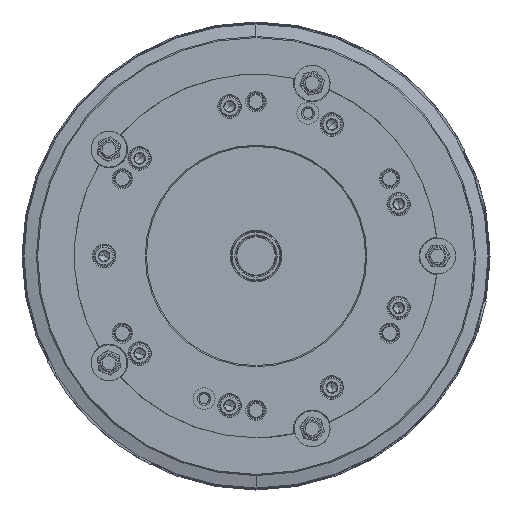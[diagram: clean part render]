
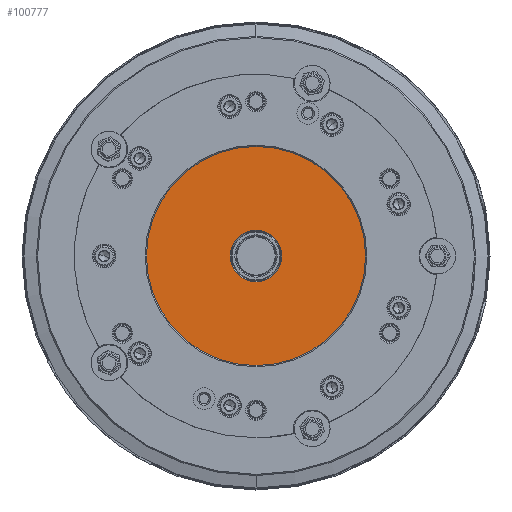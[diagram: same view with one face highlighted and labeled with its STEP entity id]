
A CAD part, left-side view. The second image highlights one B-rep face of the part: STEP entity #100777.
In plain terms, the highlighted planar face has unit normal (-1, 0, 0).
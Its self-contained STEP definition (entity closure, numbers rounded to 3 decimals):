
#2400 = DIRECTION ( 'NONE',  ( 1., 0., 0. ) ) ;
#2656 = CARTESIAN_POINT ( 'NONE',  ( -97., 0., -12.9 ) ) ;
#3259 = ORIENTED_EDGE ( 'NONE', *, *, #78749, .F. ) ;
#10144 = DIRECTION ( 'NONE',  ( 1., 0., 0. ) ) ;
#13956 = DIRECTION ( 'NONE',  ( 0., 0., 1. ) ) ;
#14984 = VERTEX_POINT ( 'NONE', #2656 ) ;
#17265 = DIRECTION ( 'NONE',  ( 1., 0., 0. ) ) ;
#21855 = FACE_OUTER_BOUND ( 'NONE', #34215, .T. ) ;
#28310 = AXIS2_PLACEMENT_3D ( 'NONE', #47510, #17265, #54222 ) ;
#30147 = DIRECTION ( 'NONE',  ( 0., 0., -1. ) ) ;
#34215 = EDGE_LOOP ( 'NONE', ( #3259, #89144 ) ) ;
#34812 = CIRCLE ( 'NONE', #114196, 12.9 ) ;
#36099 = CIRCLE ( 'NONE', #28310, 55. ) ;
#36436 = EDGE_CURVE ( 'NONE', #72760, #14984, #34812, .T. ) ;
#39428 = DIRECTION ( 'NONE',  ( 0., 0., -1. ) ) ;
#42199 = VERTEX_POINT ( 'NONE', #95495 ) ;
#47241 = ORIENTED_EDGE ( 'NONE', *, *, #109946, .T. ) ;
#47510 = CARTESIAN_POINT ( 'NONE',  ( -97., 0., 0. ) ) ;
#50303 = CARTESIAN_POINT ( 'NONE',  ( -97., 0., 55. ) ) ;
#50533 = CIRCLE ( 'NONE', #108645, 55. ) ;
#51524 = CARTESIAN_POINT ( 'NONE',  ( -97., 12.9, 0. ) ) ;
#52054 = EDGE_LOOP ( 'NONE', ( #60343, #47241 ) ) ;
#54222 = DIRECTION ( 'NONE',  ( 0., 0., -1. ) ) ;
#56807 = CARTESIAN_POINT ( 'NONE',  ( -97., 0., 0. ) ) ;
#60343 = ORIENTED_EDGE ( 'NONE', *, *, #36436, .T. ) ;
#72760 = VERTEX_POINT ( 'NONE', #85112 ) ;
#75306 = CIRCLE ( 'NONE', #119892, 12.9 ) ;
#77735 = DIRECTION ( 'NONE',  ( 0., 0., -1. ) ) ;
#78749 = EDGE_CURVE ( 'NONE', #42199, #117518, #50533, .T. ) ;
#78950 = CARTESIAN_POINT ( 'NONE',  ( -97., 0., 0. ) ) ;
#85112 = CARTESIAN_POINT ( 'NONE',  ( -97., 0., 12.9 ) ) ;
#88461 = AXIS2_PLACEMENT_3D ( 'NONE', #51524, #88548, #13956 ) ;
#88548 = DIRECTION ( 'NONE',  ( -1., 0., 0. ) ) ;
#89144 = ORIENTED_EDGE ( 'NONE', *, *, #101738, .F. ) ;
#94005 = CARTESIAN_POINT ( 'NONE',  ( -97., 0., 0. ) ) ;
#95495 = CARTESIAN_POINT ( 'NONE',  ( -97., 0., -55. ) ) ;
#95844 = PLANE ( 'NONE',  #88461 ) ;
#96565 = DIRECTION ( 'NONE',  ( 1., 0., 0. ) ) ;
#97642 = FACE_BOUND ( 'NONE', #52054, .T. ) ;
#100777 = ADVANCED_FACE ( 'NONE', ( #97642, #21855 ), #95844, .T. ) ;
#101738 = EDGE_CURVE ( 'NONE', #117518, #42199, #36099, .T. ) ;
#108645 = AXIS2_PLACEMENT_3D ( 'NONE', #94005, #2400, #39428 ) ;
#109946 = EDGE_CURVE ( 'NONE', #14984, #72760, #75306, .T. ) ;
#114196 = AXIS2_PLACEMENT_3D ( 'NONE', #78950, #96565, #77735 ) ;
#117518 = VERTEX_POINT ( 'NONE', #50303 ) ;
#119892 = AXIS2_PLACEMENT_3D ( 'NONE', #56807, #10144, #30147 ) ;
